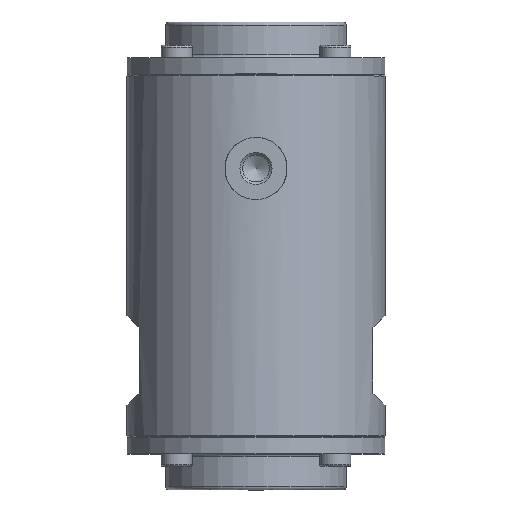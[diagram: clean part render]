
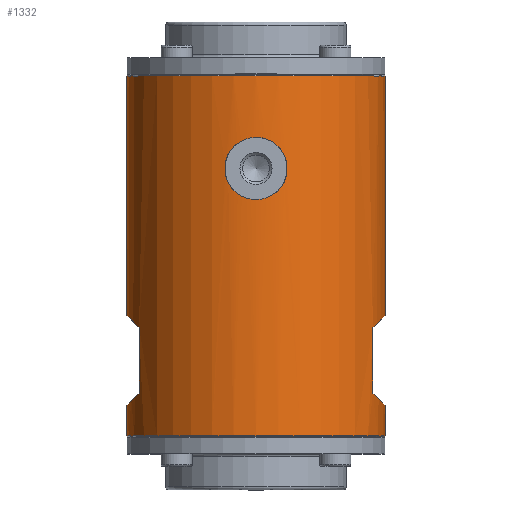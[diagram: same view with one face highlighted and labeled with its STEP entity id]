
A CAD part, top view. The second image highlights one B-rep face of the part: STEP entity #1332.
In plain terms, the highlighted cylindrical face has radius 41.5 mm (diameter 83 mm), a full revolution.
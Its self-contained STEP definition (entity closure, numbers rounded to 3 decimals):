
#31=B_SPLINE_CURVE_WITH_KNOTS('',3,(#6430,#6431,#6432,#6433,#6434,#6435,
#6436,#6437,#6438,#6439),.UNSPECIFIED.,.F.,.F.,(4,2,2,2,4),(0.,0.25,0.5,
0.75,1.),.UNSPECIFIED.);
#32=B_SPLINE_CURVE_WITH_KNOTS('',3,(#6444,#6445,#6446,#6447,#6448,#6449,
#6450,#6451,#6452,#6453),.UNSPECIFIED.,.F.,.F.,(4,2,2,2,4),(0.,0.25,0.5,
0.75,1.),.UNSPECIFIED.);
#33=ELLIPSE('',#4319,58.69,41.5);
#34=ELLIPSE('',#4320,58.69,41.5);
#35=ELLIPSE('',#4321,58.69,41.5);
#36=ELLIPSE('',#4322,58.69,41.5);
#191=LINE('',#6414,#345);
#192=LINE('',#6419,#346);
#193=LINE('',#6422,#347);
#194=LINE('',#6427,#348);
#195=LINE('',#6442,#349);
#196=LINE('',#6455,#350);
#345=VECTOR('',#5345,1.);
#346=VECTOR('',#5348,1.);
#347=VECTOR('',#5351,1.);
#348=VECTOR('',#5354,1.);
#349=VECTOR('',#5357,1.);
#350=VECTOR('',#5358,1.);
#658=CYLINDRICAL_SURFACE('',#4323,41.5);
#983=FACE_BOUND('',#2007,.T.);
#984=FACE_BOUND('',#2008,.T.);
#985=FACE_BOUND('',#2009,.T.);
#986=FACE_BOUND('',#2010,.T.);
#987=FACE_BOUND('',#2011,.T.);
#1332=ADVANCED_FACE('',(#983,#984,#985,#986,#987),#658,.T.);
#2007=EDGE_LOOP('',(#2717));
#2008=EDGE_LOOP('',(#2718));
#2009=EDGE_LOOP('',(#2719,#2720,#2721,#2722));
#2010=EDGE_LOOP('',(#2723,#2724,#2725,#2726));
#2011=EDGE_LOOP('',(#2727,#2728,#2729,#2730));
#2717=ORIENTED_EDGE('',*,*,#3536,.F.);
#2718=ORIENTED_EDGE('',*,*,#3537,.T.);
#2719=ORIENTED_EDGE('',*,*,#3538,.F.);
#2720=ORIENTED_EDGE('',*,*,#3539,.F.);
#2721=ORIENTED_EDGE('',*,*,#3540,.F.);
#2722=ORIENTED_EDGE('',*,*,#3541,.F.);
#2723=ORIENTED_EDGE('',*,*,#3542,.F.);
#2724=ORIENTED_EDGE('',*,*,#3543,.F.);
#2725=ORIENTED_EDGE('',*,*,#3544,.F.);
#2726=ORIENTED_EDGE('',*,*,#3545,.F.);
#2727=ORIENTED_EDGE('',*,*,#3546,.T.);
#2728=ORIENTED_EDGE('',*,*,#3547,.T.);
#2729=ORIENTED_EDGE('',*,*,#3548,.T.);
#2730=ORIENTED_EDGE('',*,*,#3549,.T.);
#3158=VERTEX_POINT('',#6411);
#3159=VERTEX_POINT('',#6413);
#3160=VERTEX_POINT('',#6415);
#3161=VERTEX_POINT('',#6416);
#3162=VERTEX_POINT('',#6418);
#3163=VERTEX_POINT('',#6420);
#3164=VERTEX_POINT('',#6423);
#3165=VERTEX_POINT('',#6424);
#3166=VERTEX_POINT('',#6426);
#3167=VERTEX_POINT('',#6428);
#3168=VERTEX_POINT('',#6440);
#3169=VERTEX_POINT('',#6441);
#3170=VERTEX_POINT('',#6443);
#3171=VERTEX_POINT('',#6454);
#3536=EDGE_CURVE('',#3158,#3158,#3879,.T.);
#3537=EDGE_CURVE('',#3159,#3159,#3880,.T.);
#3538=EDGE_CURVE('',#3160,#3161,#191,.T.);
#3539=EDGE_CURVE('',#3162,#3160,#33,.T.);
#3540=EDGE_CURVE('',#3163,#3162,#192,.T.);
#3541=EDGE_CURVE('',#3161,#3163,#34,.T.);
#3542=EDGE_CURVE('',#3164,#3165,#193,.T.);
#3543=EDGE_CURVE('',#3166,#3164,#35,.T.);
#3544=EDGE_CURVE('',#3167,#3166,#194,.T.);
#3545=EDGE_CURVE('',#3165,#3167,#36,.T.);
#3546=EDGE_CURVE('',#3168,#3169,#31,.T.);
#3547=EDGE_CURVE('',#3169,#3170,#195,.T.);
#3548=EDGE_CURVE('',#3170,#3171,#32,.T.);
#3549=EDGE_CURVE('',#3171,#3168,#196,.T.);
#3879=CIRCLE('',#4317,41.5);
#3880=CIRCLE('',#4318,41.5);
#4317=AXIS2_PLACEMENT_3D('',#6410,#5341,#5342);
#4318=AXIS2_PLACEMENT_3D('',#6412,#5343,#5344);
#4319=AXIS2_PLACEMENT_3D('',#6417,#5346,#5347);
#4320=AXIS2_PLACEMENT_3D('',#6421,#5349,#5350);
#4321=AXIS2_PLACEMENT_3D('',#6425,#5352,#5353);
#4322=AXIS2_PLACEMENT_3D('',#6429,#5355,#5356);
#4323=AXIS2_PLACEMENT_3D('',#6456,#5359,#5360);
#5341=DIRECTION('',(0.,-1.,0.));
#5342=DIRECTION('',(0.,0.,1.));
#5343=DIRECTION('',(0.,-1.,0.));
#5344=DIRECTION('',(0.,0.,1.));
#5345=DIRECTION('',(0.,-1.,0.));
#5346=DIRECTION('',(0.707,-0.707,0.));
#5347=DIRECTION('',(0.707,0.707,0.));
#5348=DIRECTION('',(0.,1.,0.));
#5349=DIRECTION('',(0.707,0.707,0.));
#5350=DIRECTION('',(-0.707,0.707,0.));
#5351=DIRECTION('',(0.,-1.,0.));
#5352=DIRECTION('',(-0.707,-0.707,0.));
#5353=DIRECTION('',(-0.707,0.707,0.));
#5354=DIRECTION('',(0.,1.,0.));
#5355=DIRECTION('',(-0.707,0.707,0.));
#5356=DIRECTION('',(0.707,0.707,0.));
#5357=DIRECTION('',(0.,-1.,0.));
#5358=DIRECTION('',(0.,1.,0.));
#5359=DIRECTION('',(0.,1.,0.));
#5360=DIRECTION('',(0.,0.,1.));
#6410=CARTESIAN_POINT('',(0.,-42.7,0.));
#6411=CARTESIAN_POINT('',(0.,-42.7,41.5));
#6412=CARTESIAN_POINT('',(0.,72.7,0.));
#6413=CARTESIAN_POINT('',(0.,72.7,41.5));
#6414=CARTESIAN_POINT('',(37.5,15.,17.776));
#6415=CARTESIAN_POINT('',(37.5,-8.,17.776));
#6416=CARTESIAN_POINT('',(37.5,-29.,17.776));
#6417=CARTESIAN_POINT('',(0.,-45.5,0.));
#6418=CARTESIAN_POINT('',(37.5,-8.,-17.776));
#6419=CARTESIAN_POINT('',(37.5,15.,-17.776));
#6420=CARTESIAN_POINT('',(37.5,-29.,-17.776));
#6421=CARTESIAN_POINT('',(0.,8.5,0.));
#6422=CARTESIAN_POINT('',(-37.5,15.,-17.776));
#6423=CARTESIAN_POINT('',(-37.5,-8.,-17.776));
#6424=CARTESIAN_POINT('',(-37.5,-29.,-17.776));
#6425=CARTESIAN_POINT('',(0.,-45.5,0.));
#6426=CARTESIAN_POINT('',(-37.5,-8.,17.776));
#6427=CARTESIAN_POINT('',(-37.5,15.,17.776));
#6428=CARTESIAN_POINT('',(-37.5,-29.,17.776));
#6429=CARTESIAN_POINT('',(0.,8.5,0.));
#6430=CARTESIAN_POINT('',(-9.908,44.356,40.3));
#6431=CARTESIAN_POINT('',(-9.579,46.756,40.381));
#6432=CARTESIAN_POINT('',(-8.376,48.961,40.687));
#6433=CARTESIAN_POINT('',(-4.779,52.103,41.264));
#6434=CARTESIAN_POINT('',(-2.401,52.999,41.5));
#6435=CARTESIAN_POINT('',(2.391,53.001,41.5));
#6436=CARTESIAN_POINT('',(4.784,52.097,41.263));
#6437=CARTESIAN_POINT('',(8.36,48.978,40.69));
#6438=CARTESIAN_POINT('',(9.579,46.756,40.381));
#6439=CARTESIAN_POINT('',(9.908,44.356,40.3));
#6440=CARTESIAN_POINT('',(-9.908,44.356,40.3));
#6441=CARTESIAN_POINT('',(9.908,44.356,40.3));
#6442=CARTESIAN_POINT('',(9.908,15.,40.3));
#6443=CARTESIAN_POINT('',(9.908,41.644,40.3));
#6444=CARTESIAN_POINT('',(9.908,41.644,40.3));
#6445=CARTESIAN_POINT('',(9.579,39.244,40.381));
#6446=CARTESIAN_POINT('',(8.376,37.039,40.687));
#6447=CARTESIAN_POINT('',(4.779,33.897,41.264));
#6448=CARTESIAN_POINT('',(2.401,33.001,41.5));
#6449=CARTESIAN_POINT('',(-2.391,32.999,41.5));
#6450=CARTESIAN_POINT('',(-4.784,33.903,41.263));
#6451=CARTESIAN_POINT('',(-8.36,37.022,40.69));
#6452=CARTESIAN_POINT('',(-9.579,39.244,40.381));
#6453=CARTESIAN_POINT('',(-9.908,41.644,40.3));
#6454=CARTESIAN_POINT('',(-9.908,41.644,40.3));
#6455=CARTESIAN_POINT('',(-9.908,15.,40.3));
#6456=CARTESIAN_POINT('',(0.,15.,0.));
